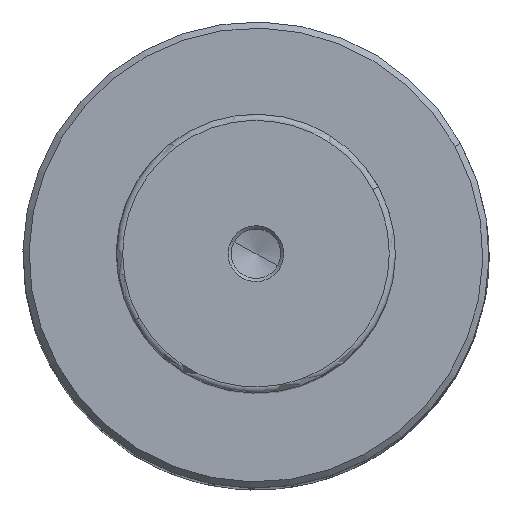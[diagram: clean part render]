
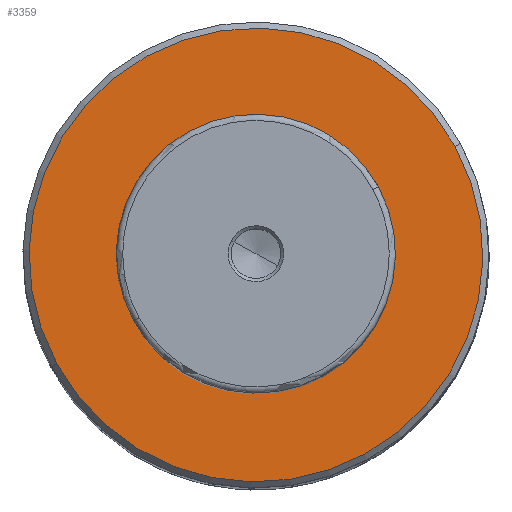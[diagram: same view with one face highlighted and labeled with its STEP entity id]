
A CAD part, top view. The second image highlights one B-rep face of the part: STEP entity #3359.
In plain terms, the highlighted planar face has unit normal (0, 0, 1).
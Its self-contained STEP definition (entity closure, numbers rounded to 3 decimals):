
#3073=CARTESIAN_POINT('Vertex',(32.12,17.547,183.)) ;
#3076=CARTESIAN_POINT('Axis2P3D Location',(0.,0.,183.)) ;
#3080=CARTESIAN_POINT('Vertex',(-32.12,-17.547,183.)) ;
#3338=CARTESIAN_POINT('Axis2P3D Location',(0.,0.,183.)) ;
#3350=CARTESIAN_POINT('Axis2P3D Location',(36.6,0.,183.)) ;
#3077=DIRECTION('Axis2P3D Direction',(0.,0.,-1.)) ;
#3339=DIRECTION('Axis2P3D Direction',(0.,0.,-1.)) ;
#3351=DIRECTION('Axis2P3D Direction',(0.,0.,1.)) ;
#3352=DIRECTION('Axis2P3D XDirection',(1.,0.,0.)) ;
#3078=AXIS2_PLACEMENT_3D('Circle Axis2P3D',#3076,#3077,$) ;
#3340=AXIS2_PLACEMENT_3D('Circle Axis2P3D',#3338,#3339,$) ;
#3353=AXIS2_PLACEMENT_3D('Plane Axis2P3D',#3350,#3351,#3352) ;
#3356=ORIENTED_EDGE('',*,*,#3082,.T.) ;
#3357=ORIENTED_EDGE('',*,*,#3342,.T.) ;
#3359=ADVANCED_FACE('',(#3358),#3354,.T.) ;
#3079=CIRCLE('generated circle',#3078,36.6) ;
#3341=CIRCLE('generated circle',#3340,36.6) ;
#3082=EDGE_CURVE('',#3081,#3074,#3079,.F.) ;
#3342=EDGE_CURVE('',#3074,#3081,#3341,.F.) ;
#3355=EDGE_LOOP('',(#3356,#3357)) ;
#3358=FACE_OUTER_BOUND('',#3355,.T.) ;
#3354=PLANE('Plane',#3353) ;
#3074=VERTEX_POINT('',#3073) ;
#3081=VERTEX_POINT('',#3080) ;
